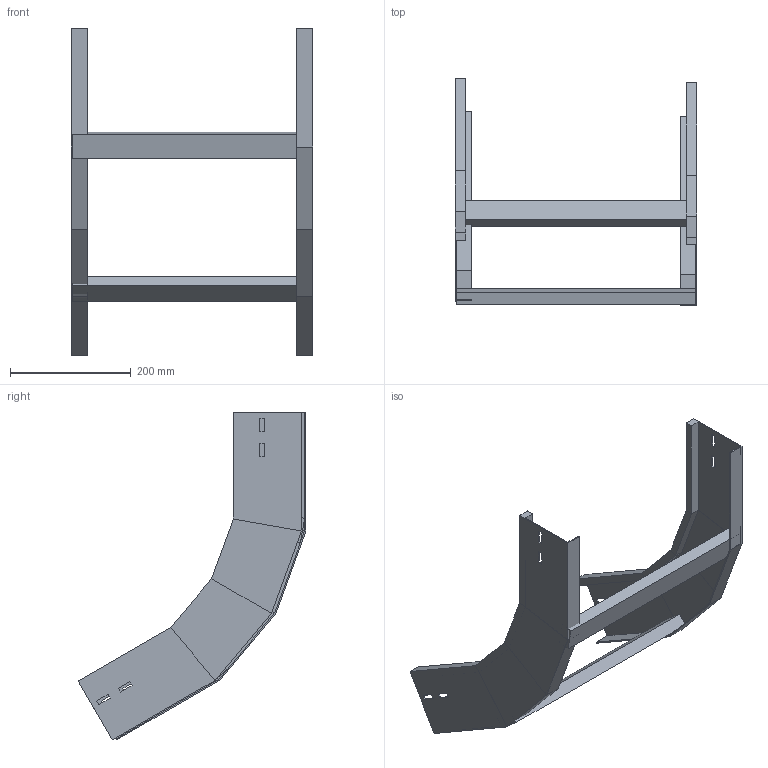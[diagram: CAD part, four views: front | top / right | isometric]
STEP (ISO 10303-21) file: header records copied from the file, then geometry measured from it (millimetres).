
FILE_DESCRIPTION (( 'STEP AP214' ), '1' );
FILE_NAME ('A2X40B3J400XX.step', '2025-04-02T09:58:46', ( '' ), ( '' ), 'SwSTEP 2.0', 'SolidWorks 2023', '' );
FILE_SCHEMA (( 'AUTOMOTIVE_DESIGN' ));
Length unit declared in the file: millimetre
Products named in the file (3): TRAVERSINO_400; LONGH.SALITA_60°_H112.5_R300; A2X40B3J400XX
Assembly tree (4 placements, depth 2):
  A2X40B3J400XX
    LONGH.SALITA_60°_H112.5_R300  x2
    TRAVERSINO_400  x2
Bounding box: 400 x 376.69 x 542.06 mm (x, y, z)
Volume: 1206826.1 mm3; surface area: 489657.4 mm2
Topology: 4 solids, 4 shells, 112 faces, 264 edges, 160 vertices
Faces by surface type: plane 112
Entity records: 1664 total; most frequent: CARTESIAN_POINT 275, ORIENTED_EDGE 264, DIRECTION 258, LINE 132, EDGE_CURVE 132, VECTOR 132, VERTEX_POINT 80, EDGE_LOOP 64
